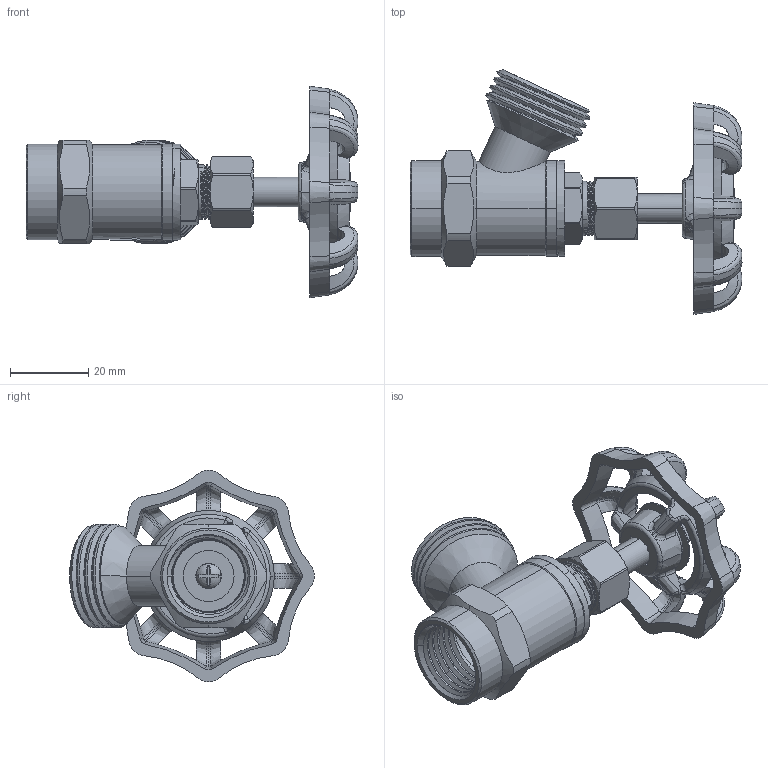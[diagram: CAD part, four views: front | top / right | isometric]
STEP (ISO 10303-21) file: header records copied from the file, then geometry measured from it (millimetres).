
FILE_DESCRIPTION((''),'2;1');
FILE_NAME('16-01544-N15-CP20-3021_ASM','2022-03-18T',('Administrator'),(''),'PRO/ENGINEER BY PARAMETRIC TECHNOLOGY CORPORATION, 2015240','PRO/ENGINEER BY PARAMETRIC TECHNOLOGY CORPORATION, 2015240','');
FILE_SCHEMA(('CONFIG_CONTROL_DESIGN'));
Length unit declared in the file: millimetre
Products named in the file (12): 16-01544-N15-0820; 16-02541-N15-1820; 16-02541-N15-4A00; 16-02541-N15-23; 27-02560-06J-22; 16-02541-N15-67; 10-02211-16J-6200; 24-03540-N20-716C; 14-06530-N15-64-3021; 10-01029-N08-620E; 16-02541-N15-5100; 16-01544-N15-CP20-3021_ASM
Assembly tree (11 placements, depth 2):
  16-01544-N15-CP20-3021_ASM
    16-01544-N15-0820
    16-02541-N15-1820
    16-02541-N15-4A00
    16-02541-N15-23
    27-02560-06J-22
    16-02541-N15-67
    10-02211-16J-6200
    24-03540-N20-716C
    14-06530-N15-64-3021
    10-01029-N08-620E
    16-02541-N15-5100
Bounding box: 84.76 x 62.45 x 54 mm (x, y, z)
Volume: 25723.5 mm3; surface area: 25845.7 mm2
Topology: 11 solids, 11 shells, 980 faces, 2571 edges, 1633 vertices
Faces by surface type: plane 274, bspline 261, cylinder 222, cone 140, extrusion 63, torus 18, sphere 2
Entity records: 63701 total; most frequent: CARTESIAN_POINT 41781, ORIENTED_EDGE 5138, DIRECTION 3472, EDGE_CURVE 2569, VERTEX_POINT 1633, AXIS2_PLACEMENT_3D 1209, B_SPLINE_CURVE_WITH_KNOTS 1111, VECTOR 1054
